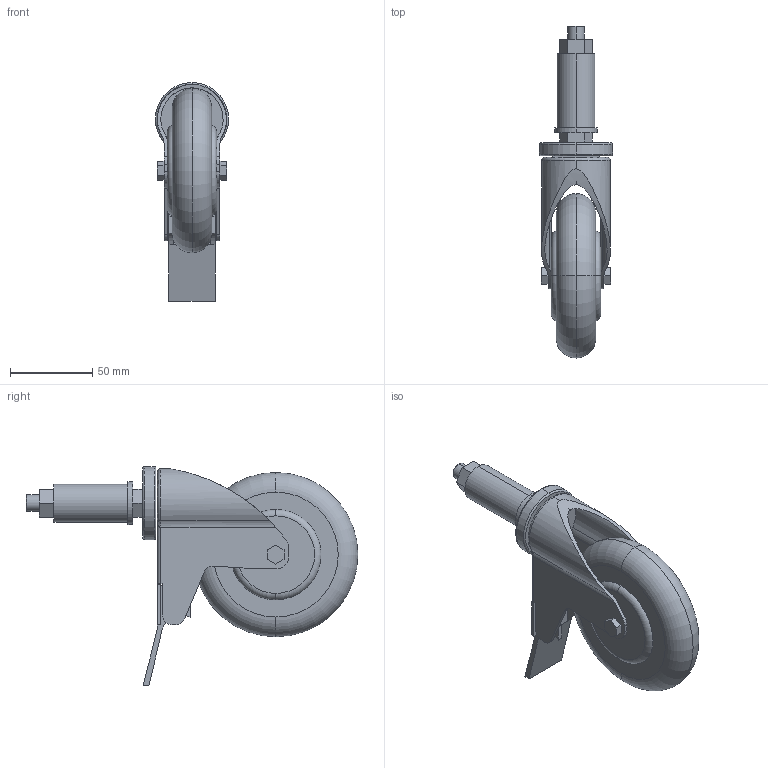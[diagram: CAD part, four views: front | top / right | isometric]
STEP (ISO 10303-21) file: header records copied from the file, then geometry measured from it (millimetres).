
FILE_DESCRIPTION (( 'STEP AP214' ), '1' );
FILE_NAME ('015.400.005.STEP', '2017-12-21T13:28:06', ( '' ), ( '' ), 'SwSTEP 2.0', 'SolidWorks 2016', '' );
FILE_SCHEMA (( 'AUTOMOTIVE_DESIGN' ));
Length unit declared in the file: millimetre
Products named in the file (1): 015.400.005
Bounding box: 44.5 x 202 x 133.18 mm (x, y, z)
Volume: 248355.8 mm3; surface area: 69205.8 mm2
Topology: 8 solids, 8 shells, 138 faces, 328 edges, 210 vertices
Faces by surface type: plane 81, cylinder 34, torus 17, cone 4, bspline 2
Entity records: 4607 total; most frequent: CARTESIAN_POINT 1069, DIRECTION 695, ORIENTED_EDGE 652, EDGE_CURVE 326, AXIS2_PLACEMENT_3D 244, VERTEX_POINT 210, VECTOR 207, LINE 207
